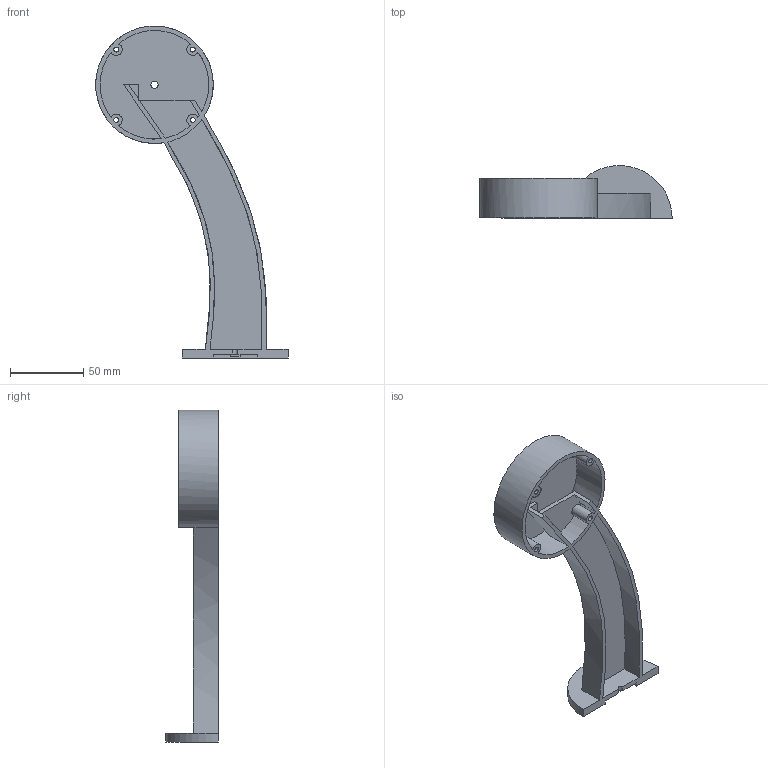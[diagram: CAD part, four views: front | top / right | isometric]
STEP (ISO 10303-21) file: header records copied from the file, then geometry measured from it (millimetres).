
FILE_DESCRIPTION(('Base splice and hand/dowel native rebuild. P1 head/arm retained as imported base geometry.'),'2;1');
FILE_NAME('R_CURVED_ARM_CORE_REAR.step','',(''),(''),'SolidCraft','SolidCraft','');
FILE_SCHEMA(('AP242_MANAGED_MODEL_BASED_3D_ENGINEERING_MIM_LF { 1 0 10303 442 1 1 4 }'));
Length unit declared in the file: millimetre
Products named in the file (1): R_CURVED_ARM_CORE_REAR
Bounding box: 130.95 x 35.93 x 226 mm (x, y, z)
Volume: 79805.7 mm3; surface area: 53255 mm2
Topology: 1 solids, 1 shells, 53 faces, 171 edges, 121 vertices
Faces by surface type: plane 24, cylinder 20, bspline 9
Full cylindrical faces by diameter (mm): 3.4 x4, 5 x1, 80 x1
Entity records: 2325 total; most frequent: CARTESIAN_POINT 1240, ORIENTED_EDGE 342, EDGE_CURVE 171, VERTEX_POINT 121, LINE 74, EDGE_LOOP 64, FACE_BOUND 64, ADVANCED_FACE 53
